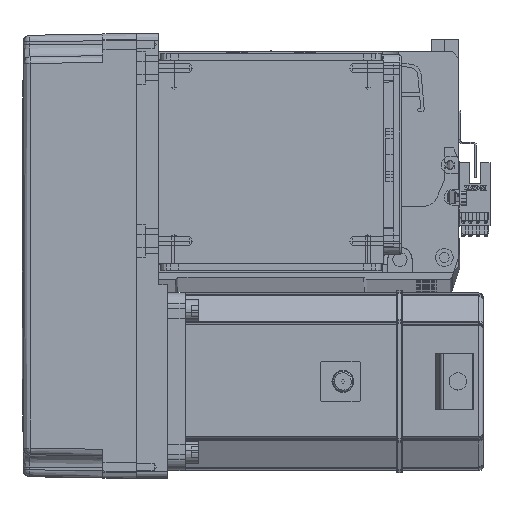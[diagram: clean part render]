
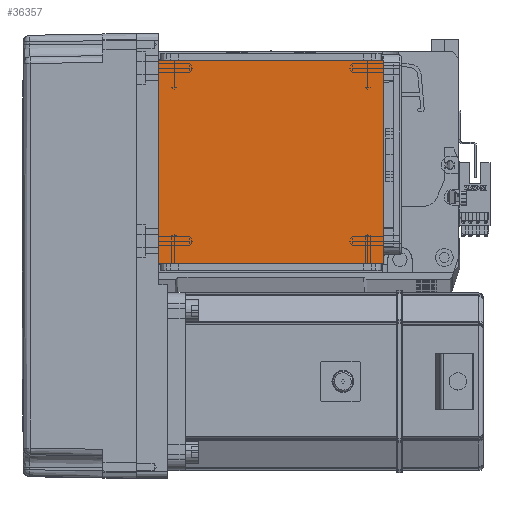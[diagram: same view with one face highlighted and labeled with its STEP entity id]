
A CAD part, top view. The second image highlights one B-rep face of the part: STEP entity #36357.
In plain terms, the highlighted planar face has unit normal (0, 0, 1).
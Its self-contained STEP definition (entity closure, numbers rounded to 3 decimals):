
#2334 = VECTOR ( 'NONE', #53517, 1000. ) ;
#3566 = DIRECTION ( 'NONE',  ( 1., 0., 0. ) ) ;
#6464 = LINE ( 'NONE', #37672, #2334 ) ;
#8459 = LINE ( 'NONE', #39375, #63444 ) ;
#10288 = LINE ( 'NONE', #52916, #18596 ) ;
#11419 = VERTEX_POINT ( 'NONE', #65870 ) ;
#12787 = VERTEX_POINT ( 'NONE', #56169 ) ;
#14118 = AXIS2_PLACEMENT_3D ( 'NONE', #62232, #62011, #3566 ) ;
#15127 = VECTOR ( 'NONE', #32122, 1000. ) ;
#18596 = VECTOR ( 'NONE', #52682, 1000. ) ;
#22327 = CARTESIAN_POINT ( 'NONE',  ( 50.5, 111.5, 115. ) ) ;
#26317 = DIRECTION ( 'NONE',  ( 0., -1., 0. ) ) ;
#27666 = ORIENTED_EDGE ( 'NONE', *, *, #40918, .F. ) ;
#31652 = ORIENTED_EDGE ( 'NONE', *, *, #34102, .T. ) ;
#32122 = DIRECTION ( 'NONE',  ( 1., 0., 0. ) ) ;
#32358 = VERTEX_POINT ( 'NONE', #22327 ) ;
#34102 = EDGE_CURVE ( 'NONE', #34568, #32358, #6464, .T. ) ;
#34568 = VERTEX_POINT ( 'NONE', #68766 ) ;
#36357 = ADVANCED_FACE ( 'NONE', ( #63221 ), #51800, .T. ) ;
#37672 = CARTESIAN_POINT ( 'NONE',  ( 50.5, 122., 115. ) ) ;
#39375 = CARTESIAN_POINT ( 'NONE',  ( -50.5, 122., 115. ) ) ;
#40918 = EDGE_CURVE ( 'NONE', #11419, #32358, #55944, .T. ) ;
#45104 = ORIENTED_EDGE ( 'NONE', *, *, #57295, .F. ) ;
#51800 = PLANE ( 'NONE',  #14118 ) ;
#52682 = DIRECTION ( 'NONE',  ( -1., 0., 0. ) ) ;
#52916 = CARTESIAN_POINT ( 'NONE',  ( -70.004, 20., 115. ) ) ;
#53517 = DIRECTION ( 'NONE',  ( 0., 1., 0. ) ) ;
#53777 = EDGE_CURVE ( 'NONE', #11419, #12787, #8459, .T. ) ;
#55944 = LINE ( 'NONE', #59545, #15127 ) ;
#56169 = CARTESIAN_POINT ( 'NONE',  ( -50.5, 20., 115. ) ) ;
#57295 = EDGE_CURVE ( 'NONE', #34568, #12787, #10288, .T. ) ;
#58372 = EDGE_LOOP ( 'NONE', ( #27666, #58554, #45104, #31652 ) ) ;
#58554 = ORIENTED_EDGE ( 'NONE', *, *, #53777, .T. ) ;
#59545 = CARTESIAN_POINT ( 'NONE',  ( -70.004, 111.5, 115. ) ) ;
#62011 = DIRECTION ( 'NONE',  ( 0., 0., 1. ) ) ;
#62232 = CARTESIAN_POINT ( 'NONE',  ( 0., 0., 115. ) ) ;
#63221 = FACE_OUTER_BOUND ( 'NONE', #58372, .T. ) ;
#63444 = VECTOR ( 'NONE', #26317, 1000. ) ;
#65870 = CARTESIAN_POINT ( 'NONE',  ( -50.5, 111.5, 115. ) ) ;
#68766 = CARTESIAN_POINT ( 'NONE',  ( 50.5, 20., 115. ) ) ;
